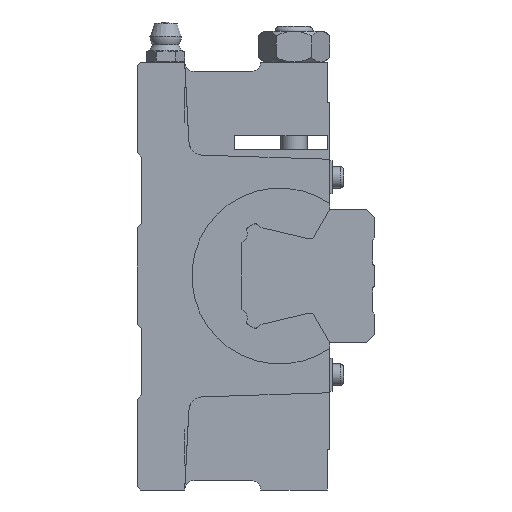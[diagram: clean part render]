
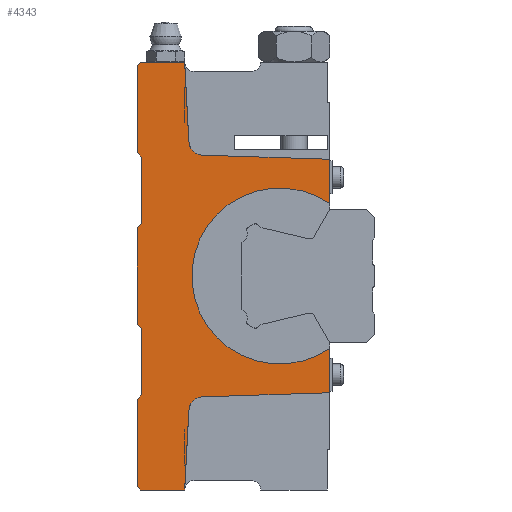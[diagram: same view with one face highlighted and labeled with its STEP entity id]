
A CAD part, left-side view. The second image highlights one B-rep face of the part: STEP entity #4343.
In plain terms, the highlighted planar face has unit normal (-1, 0, 0).
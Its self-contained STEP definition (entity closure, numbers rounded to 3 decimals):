
#267=CIRCLE('',#4683,3.);
#269=CIRCLE('',#4688,3.);
#279=CIRCLE('',#4723,18.5);
#457=LINE('',#6522,#833);
#471=LINE('',#6551,#847);
#540=LINE('',#6831,#916);
#556=LINE('',#6865,#932);
#561=LINE('',#6885,#937);
#563=LINE('',#6889,#939);
#567=LINE('',#6909,#943);
#571=LINE('',#6920,#947);
#577=LINE('',#6933,#953);
#586=LINE('',#6973,#962);
#592=LINE('',#6985,#968);
#595=LINE('',#6991,#971);
#598=LINE('',#7001,#974);
#601=LINE('',#7007,#977);
#604=LINE('',#7013,#980);
#607=LINE('',#7019,#983);
#610=LINE('',#7025,#986);
#613=LINE('',#7031,#989);
#616=LINE('',#7037,#992);
#619=LINE('',#7043,#995);
#622=LINE('',#7053,#998);
#626=LINE('',#7061,#1002);
#627=LINE('',#7062,#1003);
#833=VECTOR('',#5287,1000.);
#847=VECTOR('',#5303,1000.);
#916=VECTOR('',#5462,1000.);
#932=VECTOR('',#5488,1000.);
#937=VECTOR('',#5499,1000.);
#939=VECTOR('',#5503,1000.);
#943=VECTOR('',#5515,1000.);
#947=VECTOR('',#5523,1000.);
#953=VECTOR('',#5533,1000.);
#962=VECTOR('',#5562,1000.);
#968=VECTOR('',#5572,1000.);
#971=VECTOR('',#5577,1000.);
#974=VECTOR('',#5586,1000.);
#977=VECTOR('',#5591,1000.);
#980=VECTOR('',#5596,1000.);
#983=VECTOR('',#5601,1000.);
#986=VECTOR('',#5606,1000.);
#989=VECTOR('',#5611,1000.);
#992=VECTOR('',#5616,1000.);
#995=VECTOR('',#5621,1000.);
#998=VECTOR('',#5630,1000.);
#1002=VECTOR('',#5642,1000.);
#1003=VECTOR('',#5643,1000.);
#1733=ORIENTED_EDGE('',*,*,#2756,.T.);
#1734=ORIENTED_EDGE('',*,*,#2527,.T.);
#1735=ORIENTED_EDGE('',*,*,#2757,.F.);
#1736=ORIENTED_EDGE('',*,*,#2650,.F.);
#1737=ORIENTED_EDGE('',*,*,#2673,.F.);
#1738=ORIENTED_EDGE('',*,*,#2670,.T.);
#1739=ORIENTED_EDGE('',*,*,#2694,.F.);
#1740=ORIENTED_EDGE('',*,*,#2687,.F.);
#1741=ORIENTED_EDGE('',*,*,#2682,.F.);
#1742=ORIENTED_EDGE('',*,*,#2751,.F.);
#1743=ORIENTED_EDGE('',*,*,#2746,.F.);
#1744=ORIENTED_EDGE('',*,*,#2743,.F.);
#1745=ORIENTED_EDGE('',*,*,#2740,.F.);
#1746=ORIENTED_EDGE('',*,*,#2737,.F.);
#1747=ORIENTED_EDGE('',*,*,#2734,.F.);
#1748=ORIENTED_EDGE('',*,*,#2731,.F.);
#1749=ORIENTED_EDGE('',*,*,#2728,.F.);
#1750=ORIENTED_EDGE('',*,*,#2725,.F.);
#1751=ORIENTED_EDGE('',*,*,#2720,.F.);
#1752=ORIENTED_EDGE('',*,*,#2717,.F.);
#1753=ORIENTED_EDGE('',*,*,#2710,.F.);
#1754=ORIENTED_EDGE('',*,*,#2680,.T.);
#1755=ORIENTED_EDGE('',*,*,#2675,.F.);
#1756=ORIENTED_EDGE('',*,*,#2666,.F.);
#1757=ORIENTED_EDGE('',*,*,#2758,.T.);
#1758=ORIENTED_EDGE('',*,*,#2541,.T.);
#2527=EDGE_CURVE('',#3109,#3108,#457,.T.);
#2541=EDGE_CURVE('',#3123,#3122,#471,.T.);
#2650=EDGE_CURVE('',#3202,#3201,#540,.T.);
#2666=EDGE_CURVE('',#3215,#3216,#556,.T.);
#2670=EDGE_CURVE('',#3220,#3219,#267,.T.);
#2673=EDGE_CURVE('',#3220,#3202,#561,.T.);
#2675=EDGE_CURVE('',#3216,#3222,#563,.T.);
#2680=EDGE_CURVE('',#3226,#3222,#269,.T.);
#2682=EDGE_CURVE('',#3227,#3228,#567,.T.);
#2687=EDGE_CURVE('',#3228,#3232,#571,.T.);
#2694=EDGE_CURVE('',#3232,#3219,#577,.T.);
#2710=EDGE_CURVE('',#3226,#3244,#586,.T.);
#2717=EDGE_CURVE('',#3244,#3248,#592,.T.);
#2720=EDGE_CURVE('',#3248,#3250,#595,.T.);
#2725=EDGE_CURVE('',#3250,#3254,#598,.T.);
#2728=EDGE_CURVE('',#3254,#3256,#601,.T.);
#2731=EDGE_CURVE('',#3256,#3258,#604,.T.);
#2734=EDGE_CURVE('',#3258,#3260,#607,.T.);
#2737=EDGE_CURVE('',#3260,#3262,#610,.T.);
#2740=EDGE_CURVE('',#3262,#3264,#613,.T.);
#2743=EDGE_CURVE('',#3264,#3266,#616,.T.);
#2746=EDGE_CURVE('',#3266,#3268,#619,.T.);
#2751=EDGE_CURVE('',#3268,#3227,#622,.T.);
#2756=EDGE_CURVE('',#3122,#3109,#279,.T.);
#2757=EDGE_CURVE('',#3201,#3108,#626,.T.);
#2758=EDGE_CURVE('',#3215,#3123,#627,.T.);
#3108=VERTEX_POINT('',#6521);
#3109=VERTEX_POINT('',#6523);
#3122=VERTEX_POINT('',#6550);
#3123=VERTEX_POINT('',#6552);
#3201=VERTEX_POINT('',#6828);
#3202=VERTEX_POINT('',#6830);
#3215=VERTEX_POINT('',#6864);
#3216=VERTEX_POINT('',#6866);
#3219=VERTEX_POINT('',#6879);
#3220=VERTEX_POINT('',#6881);
#3222=VERTEX_POINT('',#6890);
#3226=VERTEX_POINT('',#6906);
#3227=VERTEX_POINT('',#6910);
#3228=VERTEX_POINT('',#6911);
#3232=VERTEX_POINT('',#6921);
#3244=VERTEX_POINT('',#6974);
#3248=VERTEX_POINT('',#6986);
#3250=VERTEX_POINT('',#6992);
#3254=VERTEX_POINT('',#7002);
#3256=VERTEX_POINT('',#7008);
#3258=VERTEX_POINT('',#7014);
#3260=VERTEX_POINT('',#7020);
#3262=VERTEX_POINT('',#7026);
#3264=VERTEX_POINT('',#7032);
#3266=VERTEX_POINT('',#7038);
#3268=VERTEX_POINT('',#7044);
#3575=EDGE_LOOP('',(#1733,#1734,#1735,#1736,#1737,#1738,#1739,#1740,#1741,
#1742,#1743,#1744,#1745,#1746,#1747,#1748,#1749,#1750,#1751,#1752,#1753,
#1754,#1755,#1756,#1757,#1758));
#3895=FACE_BOUND('',#3575,.T.);
#4152=PLANE('',#4722);
#4343=ADVANCED_FACE('',(#3895),#4152,.F.);
#4683=AXIS2_PLACEMENT_3D('',#6880,#5493,#5494);
#4688=AXIS2_PLACEMENT_3D('',#6905,#5510,#5511);
#4722=AXIS2_PLACEMENT_3D('',#7059,#5638,#5639);
#4723=AXIS2_PLACEMENT_3D('',#7060,#5640,#5641);
#5287=DIRECTION('',(0.,0.,1.));
#5303=DIRECTION('',(0.,0.,1.));
#5462=DIRECTION('',(0.,0.,-1.));
#5488=DIRECTION('',(0.,0.,-1.));
#5493=DIRECTION('',(1.,0.,0.));
#5494=DIRECTION('',(0.,0.,-1.));
#5499=DIRECTION('',(0.,-0.999,-0.032));
#5503=DIRECTION('',(0.,0.999,-0.032));
#5510=DIRECTION('',(1.,0.,0.));
#5511=DIRECTION('',(0.,0.,-1.));
#5515=DIRECTION('',(0.,-0.707,0.707));
#5523=DIRECTION('',(0.,-1.,0.));
#5533=DIRECTION('',(0.,-0.052,-0.999));
#5562=DIRECTION('',(0.,0.052,-0.999));
#5572=DIRECTION('',(0.,1.,0.));
#5577=DIRECTION('',(0.,0.707,0.707));
#5586=DIRECTION('',(0.,0.,1.));
#5591=DIRECTION('',(0.,-0.707,0.707));
#5596=DIRECTION('',(0.,0.,1.));
#5601=DIRECTION('',(0.,0.707,0.707));
#5606=DIRECTION('',(0.,0.,1.));
#5611=DIRECTION('',(0.,-0.707,0.707));
#5616=DIRECTION('',(0.,0.,1.));
#5621=DIRECTION('',(0.,0.707,0.707));
#5630=DIRECTION('',(0.,0.,1.));
#5638=DIRECTION('',(1.,0.,0.));
#5639=DIRECTION('',(0.,0.,-1.));
#5640=DIRECTION('',(1.,0.,0.));
#5641=DIRECTION('',(0.,0.,-1.));
#5642=DIRECTION('',(0.,-1.,0.));
#5643=DIRECTION('',(0.,-1.,0.));
#6521=CARTESIAN_POINT('',(-39.,3.,24.521));
#6522=CARTESIAN_POINT('',(-39.,3.,-24.521));
#6523=CARTESIAN_POINT('',(-39.,3.,15.232));
#6550=CARTESIAN_POINT('',(-39.,3.,-15.232));
#6551=CARTESIAN_POINT('',(-39.,3.,-24.521));
#6552=CARTESIAN_POINT('',(-39.,3.,-24.521));
#6828=CARTESIAN_POINT('',(-39.,3.5,24.521));
#6830=CARTESIAN_POINT('',(-39.,3.5,24.564));
#6831=CARTESIAN_POINT('',(-39.,3.5,24.564));
#6864=CARTESIAN_POINT('',(-39.,3.5,-24.521));
#6865=CARTESIAN_POINT('',(-39.,3.5,24.564));
#6866=CARTESIAN_POINT('',(-39.,3.5,-24.564));
#6879=CARTESIAN_POINT('',(-39.,32.622,28.253));
#6880=CARTESIAN_POINT('',(-39.,29.626,28.41));
#6881=CARTESIAN_POINT('',(-39.,29.723,25.412));
#6885=CARTESIAN_POINT('',(-39.,29.723,25.412));
#6889=CARTESIAN_POINT('',(-39.,3.5,-24.564));
#6890=CARTESIAN_POINT('',(-39.,29.723,-25.412));
#6905=CARTESIAN_POINT('',(-39.,29.626,-28.41));
#6906=CARTESIAN_POINT('',(-39.,32.622,-28.253));
#6909=CARTESIAN_POINT('',(-39.,43.5,44.3));
#6910=CARTESIAN_POINT('',(-39.,43.5,44.3));
#6911=CARTESIAN_POINT('',(-39.,42.8,45.));
#6920=CARTESIAN_POINT('',(-39.,42.8,45.));
#6921=CARTESIAN_POINT('',(-39.,33.5,45.));
#6933=CARTESIAN_POINT('',(-39.,33.5,45.));
#6973=CARTESIAN_POINT('',(-39.,32.622,-28.253));
#6974=CARTESIAN_POINT('',(-39.,33.5,-45.));
#6985=CARTESIAN_POINT('',(-39.,33.5,-45.));
#6986=CARTESIAN_POINT('',(-39.,42.8,-45.));
#6991=CARTESIAN_POINT('',(-39.,42.8,-45.));
#6992=CARTESIAN_POINT('',(-39.,43.5,-44.3));
#7001=CARTESIAN_POINT('',(-39.,43.5,-44.3));
#7002=CARTESIAN_POINT('',(-39.,43.5,-25.9));
#7007=CARTESIAN_POINT('',(-39.,43.5,-25.9));
#7008=CARTESIAN_POINT('',(-39.,42.6,-25.));
#7013=CARTESIAN_POINT('',(-39.,42.6,-25.));
#7014=CARTESIAN_POINT('',(-39.,42.6,-11.));
#7019=CARTESIAN_POINT('',(-39.,42.6,-11.));
#7020=CARTESIAN_POINT('',(-39.,43.5,-10.1));
#7025=CARTESIAN_POINT('',(-39.,43.5,-10.1));
#7026=CARTESIAN_POINT('',(-39.,43.5,10.1));
#7031=CARTESIAN_POINT('',(-39.,43.5,10.1));
#7032=CARTESIAN_POINT('',(-39.,42.6,11.));
#7037=CARTESIAN_POINT('',(-39.,42.6,11.));
#7038=CARTESIAN_POINT('',(-39.,42.6,25.));
#7043=CARTESIAN_POINT('',(-39.,42.6,25.));
#7044=CARTESIAN_POINT('',(-39.,43.5,25.9));
#7053=CARTESIAN_POINT('',(-39.,43.5,25.9));
#7059=CARTESIAN_POINT('',(-39.,29.626,28.41));
#7060=CARTESIAN_POINT('',(-39.,13.5,0.));
#7061=CARTESIAN_POINT('',(-39.,4.,24.521));
#7062=CARTESIAN_POINT('',(-39.,4.,-24.521));
